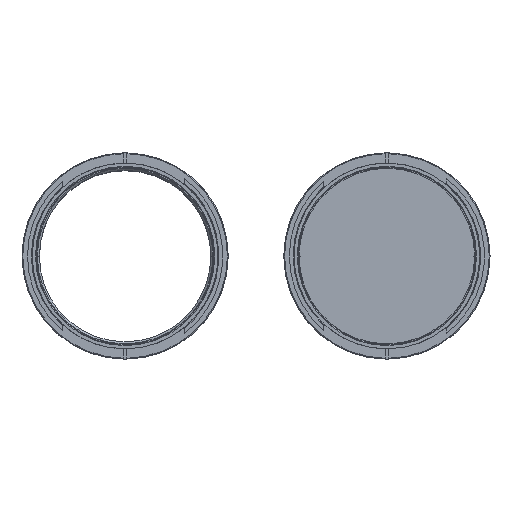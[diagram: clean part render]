
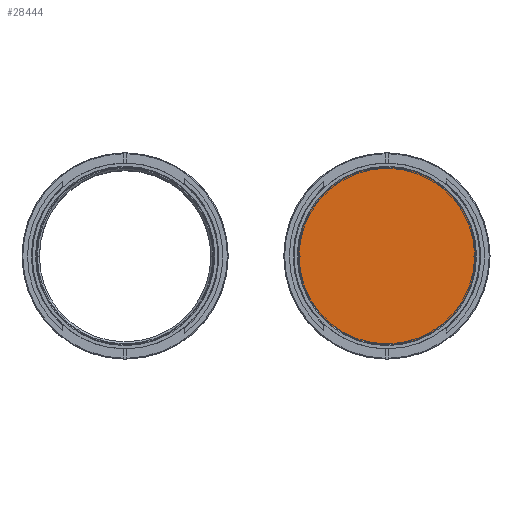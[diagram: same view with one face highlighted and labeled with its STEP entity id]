
A CAD part, top view. The second image highlights one B-rep face of the part: STEP entity #28444.
In plain terms, the highlighted planar face has unit normal (0, 0, 1).
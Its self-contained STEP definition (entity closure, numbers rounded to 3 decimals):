
#20257=CARTESIAN_POINT('',(0.,0.,25.));
#20258=DIRECTION('',(0.,0.,1.));
#20259=DIRECTION('',(1.,0.,0.));
#20260=AXIS2_PLACEMENT_3D('',#20257,#20258,#20259);
#20262=CARTESIAN_POINT('',(0.,0.,25.));
#20263=DIRECTION('',(0.,0.,1.));
#20264=DIRECTION('',(-1.,0.,0.));
#20265=AXIS2_PLACEMENT_3D('',#20262,#20263,#20264);
#20267=DIRECTION('',(-0.536,0.844,0.));
#20268=VECTOR('',#20267,0.084);
#20269=CARTESIAN_POINT('',(12.054,-19.,25.));
#20270=LINE('',#20269,#20268);
#20271=CARTESIAN_POINT('',(22.399,-0.892,25.));
#20272=CARTESIAN_POINT('',(22.369,-1.824,25.));
#20273=CARTESIAN_POINT('',(22.196,-3.618,25.));
#20274=CARTESIAN_POINT('',(21.643,-6.155,25.));
#20275=CARTESIAN_POINT('',(20.895,-8.367,25.));
#20276=CARTESIAN_POINT('',(20.045,-10.257,25.));
#20277=CARTESIAN_POINT('',(19.418,-11.375,25.));
#20278=CARTESIAN_POINT('',(19.098,-11.898,25.));
#20280=CARTESIAN_POINT('',(12.01,-18.929,25.));
#20281=CARTESIAN_POINT('',(12.55,-18.586,25.));
#20282=CARTESIAN_POINT('',(13.601,-17.855,25.));
#20283=CARTESIAN_POINT('',(15.096,-16.611,25.));
#20284=CARTESIAN_POINT('',(16.477,-15.241,25.));
#20285=CARTESIAN_POINT('',(17.717,-13.778,25.));
#20286=CARTESIAN_POINT('',(18.82,-12.23,25.));
#20287=CARTESIAN_POINT('',(19.828,-10.525,25.));
#20288=CARTESIAN_POINT('',(20.749,-8.586,25.));
#20289=CARTESIAN_POINT('',(21.567,-6.298,25.));
#20290=CARTESIAN_POINT('',(22.178,-3.634,25.));
#20291=CARTESIAN_POINT('',(22.362,-1.824,25.));
#20292=CARTESIAN_POINT('',(22.399,-0.892,25.));
#20328=CARTESIAN_POINT('',(0.,0.,25.));
#20329=DIRECTION('',(0.,0.,1.));
#20330=DIRECTION('',(0.849,-0.529,0.));
#20331=AXIS2_PLACEMENT_3D('',#20328,#20329,#20330);
#27819=CARTESIAN_POINT('',(21.5,0.,25.));
#27820=CARTESIAN_POINT('',(-21.5,0.,25.));
#27821=VERTEX_POINT('',#27819);
#27822=VERTEX_POINT('',#27820);
#27837=CARTESIAN_POINT('',(12.054,-19.,25.));
#27838=CARTESIAN_POINT('',(12.01,-18.929,25.));
#27839=VERTEX_POINT('',#27837);
#27840=VERTEX_POINT('',#27838);
#27841=VERTEX_POINT('',#20292);
#27842=VERTEX_POINT('',#20278);
#28425=CARTESIAN_POINT('',(0.,0.,25.));
#28426=DIRECTION('',(0.,0.,1.));
#28427=DIRECTION('',(0.,1.,0.));
#28428=AXIS2_PLACEMENT_3D('',#28425,#28426,#28427);
#28429=PLANE('',#28428);
#28431=ORIENTED_EDGE('',*,*,#28430,.F.);
#28433=ORIENTED_EDGE('',*,*,#28432,.F.);
#28435=ORIENTED_EDGE('',*,*,#28434,.F.);
#28437=ORIENTED_EDGE('',*,*,#28436,.F.);
#28438=EDGE_LOOP('',(#28431,#28433,#28435,#28437));
#28439=FACE_OUTER_BOUND('',#28438,.F.);
#28440=ORIENTED_EDGE('',*,*,#28392,.T.);
#28441=ORIENTED_EDGE('',*,*,#28407,.T.);
#28442=EDGE_LOOP('',(#28440,#28441));
#28443=FACE_BOUND('',#28442,.F.);
#28444=ADVANCED_FACE('',(#28439,#28443),#28429,.T.);
#20261=CIRCLE('',#20260,21.5);
#20266=CIRCLE('',#20265,21.5);
#20279=B_SPLINE_CURVE_WITH_KNOTS('',3,(#20271,#20272,#20273,#20274,#20275,
#20276,#20277,#20278),.UNSPECIFIED.,.F.,.F.,(4,1,1,1,1,4),(0.,0.2,0.4,
0.6,0.8,1.),.UNSPECIFIED.);
#20293=B_SPLINE_CURVE_WITH_KNOTS('',3,(#20280,#20281,#20282,#20283,#20284,
#20285,#20286,#20287,#20288,#20289,#20290,#20291,#20292),.UNSPECIFIED.,.F.,.F.,(
4,1,1,1,1,1,1,1,1,1,4),(0.,0.1,0.2,0.3,0.4,0.5,0.6,0.7,0.8,
0.9,1.),.UNSPECIFIED.);
#20332=CIRCLE('',#20331,22.501);
#28392=EDGE_CURVE('',#27821,#27822,#20261,.T.);
#28407=EDGE_CURVE('',#27822,#27821,#20266,.T.);
#28430=EDGE_CURVE('',#27839,#27840,#20270,.T.);
#28432=EDGE_CURVE('',#27842,#27839,#20332,.T.);
#28434=EDGE_CURVE('',#27841,#27842,#20279,.T.);
#28436=EDGE_CURVE('',#27840,#27841,#20293,.T.);
